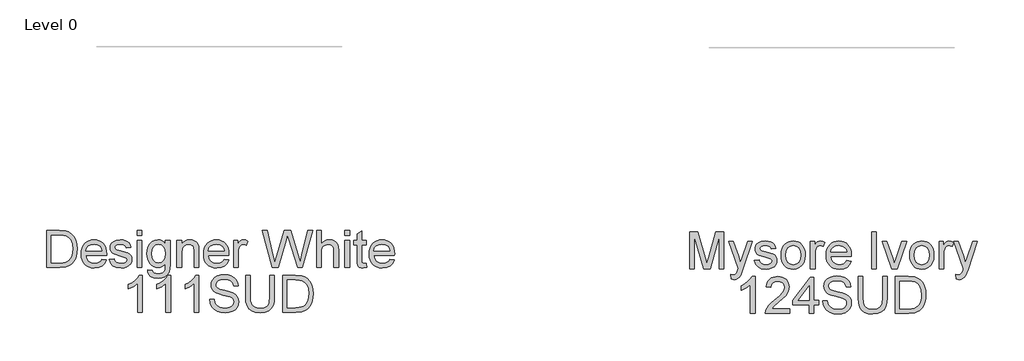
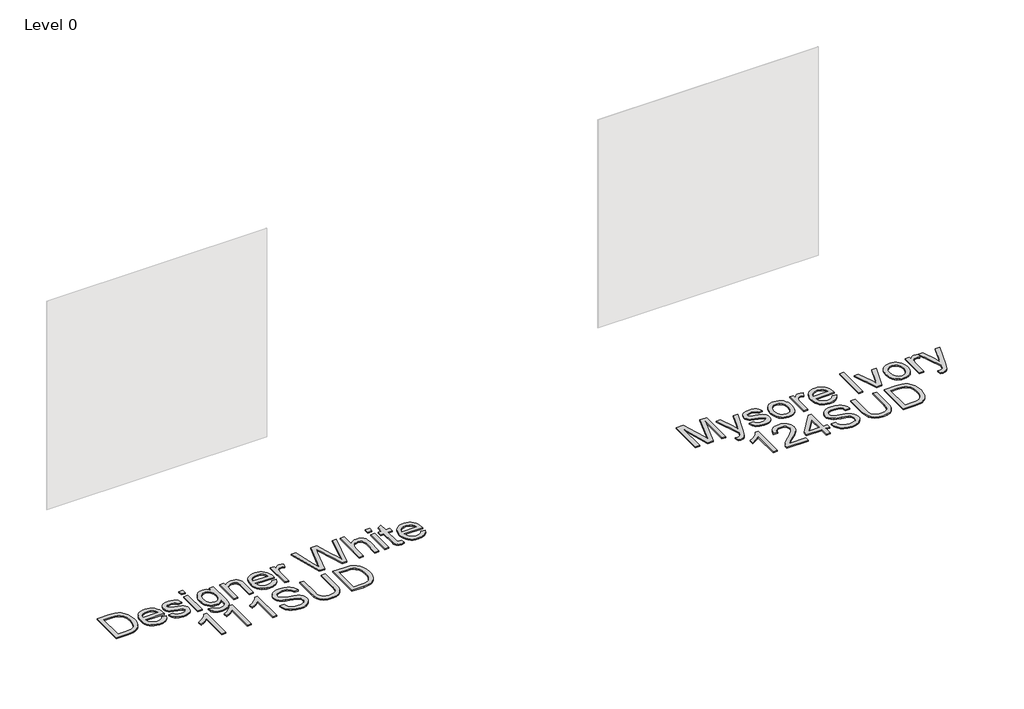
# One storey, part 28 of 37: 2 proxies.
"""IFC4 building model written with IfcOpenShell, lengths in millimetres."""

import ifcopenshell
import ifcopenshell.guid

model = None  # the IFC model being written
_history = None  # IfcOwnerHistory: only IFC2X3 demands one
_inside = {}  # id of a spatial element -> (the spatial element, [elements in it])
_under = {}  # id of a project, library or spatial element -> (it, [spatial elements below it])
_declared = {}  # id of a project -> (the project, [libraries it declares])
_typed = {}  # id of a type object -> (the type object, [elements of that type])
_made_of = {}  # id of a material, layer set ... -> (it, [elements and type objects made of it])


def new_model(schema):
    """Start an empty IFC model of exactly this schema.

    Asked for "IFC4X3", IfcOpenShell would pick the latest addendum, in which some entities
    have other attributes; the version numbers below select the first issue.
    IFC2X3 requires an IfcOwnerHistory on every rooted entity: one is made here for all.
    """
    global model, _history
    if schema == "IFC4X3":
        model = ifcopenshell.file(schema_version=(4, 3, 0, 0))
    else:
        model = ifcopenshell.file(schema=schema)
    _inside.clear()
    _under.clear()
    _declared.clear()
    _typed.clear()
    _made_of.clear()
    _history = None
    if model.schema == "IFC2X3":
        org = make("IfcOrganization", Name="unknown")
        user = make(
            "IfcPersonAndOrganization",
            ThePerson=make("IfcPerson", FamilyName="unknown"),
            TheOrganization=org,
        )
        app = make(
            "IfcApplication",
            ApplicationDeveloper=org,
            Version="unknown",
            ApplicationFullName="unknown",
            ApplicationIdentifier="unknown",
        )
        _history = make(
            "IfcOwnerHistory",
            OwningUser=user,
            OwningApplication=app,
            ChangeAction="ADDED",
            CreationDate=0,
        )
    return model


def make(cls, **values):
    """One entity of the class cls with the attributes given. An attribute that is None is left unset."""
    return model.create_entity(
        cls, **{name: value for name, value in values.items() if value is not None}
    )


def rooted(cls, **values):
    """An entity with a GlobalId (a new one), such as an element, a storey or a relation."""
    return make(cls, GlobalId=ifcopenshell.guid.new(), OwnerHistory=_history, **values)


def si_unit(unit_type, name, prefix=None):
    """IfcSIUnit, for example si_unit("LENGTHUNIT", "METRE", prefix="MILLI")."""
    return make("IfcSIUnit", UnitType=unit_type, Prefix=prefix, Name=name)


def assignment(units):
    """IfcUnitAssignment: the units of a project."""
    return None if units is None else make("IfcUnitAssignment", Units=units)


def point(xyz):
    """IfcCartesianPoint."""
    return None if xyz is None else make("IfcCartesianPoint", Coordinates=xyz)


def direction(xyz):
    """IfcDirection."""
    return None if xyz is None else make("IfcDirection", DirectionRatios=xyz)


def frame(location, z_axis=None, x_axis=None):
    """IfcAxis2Placement3D, a coordinate frame: its origin and axes. An axis left out is left unset."""
    return make(
        "IfcAxis2Placement3D",
        Location=point(location),
        Axis=direction(z_axis),
        RefDirection=direction(x_axis),
    )


def origin():
    """The frame at (0, 0, 0) with its axes left unset."""
    return frame((0.0, 0.0, 0.0))


def origin_with_axes():
    """The frame at (0, 0, 0) with the z axis (0, 0, 1) and the x axis (1, 0, 0) written out."""
    return frame((0.0, 0.0, 0.0), z_axis=(0.0, 0.0, 1.0), x_axis=(1.0, 0.0, 0.0))


def place(relative_to, where):
    """IfcLocalPlacement: puts the frame where relative to a parent placement (None: the world)."""
    return make(
        "IfcLocalPlacement", PlacementRelTo=relative_to, RelativePlacement=where
    )


def context(
    kind, dimensions, precision=None, world=None, true_north=None, identifier=None
):
    """IfcGeometricRepresentationContext, for example the 3D "Model" context."""
    return make(
        "IfcGeometricRepresentationContext",
        ContextIdentifier=identifier,
        ContextType=kind,
        CoordinateSpaceDimension=dimensions,
        Precision=precision,
        WorldCoordinateSystem=world,
        TrueNorth=true_north,
    )


def project(units=None, contexts=None):
    """IfcProject with its units and contexts."""
    return rooted(
        "IfcProject",
        Name="project",
        RepresentationContexts=contexts,
        UnitsInContext=assignment(units),
    )


def spatial(cls, under=None, at=None, **own):
    """A site, building, storey or space (cls), placed at a placement, below another one or the project."""
    s = rooted(cls, ObjectPlacement=at, **own)
    if under is not None:
        _under.setdefault(under.id(), (under, []))[1].append(s)
    return s


def polyline(points):
    """IfcPolyline through the points."""
    return make("IfcPolyline", Points=[point(p) for p in points])


def outline(outer, holes=None, kind="AREA"):
    """IfcArbitraryClosedProfileDef: a profile drawn as a closed curve; with holes, ...WithVoids."""
    if holes is None:
        return make("IfcArbitraryClosedProfileDef", ProfileType=kind, OuterCurve=outer)
    return make(
        "IfcArbitraryProfileDefWithVoids",
        ProfileType=kind,
        OuterCurve=outer,
        InnerCurves=holes,
    )


def extrude(swept, where, along, depth):
    """IfcExtrudedAreaSolid: the profile swept, set in the frame where, extruded along a direction by depth."""
    return make(
        "IfcExtrudedAreaSolid",
        SweptArea=swept,
        Position=where,
        ExtrudedDirection=direction(along),
        Depth=depth,
    )


def shape(context_of_items, identifier, shape_type, items):
    """IfcShapeRepresentation: the items that make up one representation, for example the "Body"."""
    return make(
        "IfcShapeRepresentation",
        ContextOfItems=context_of_items,
        RepresentationIdentifier=identifier,
        RepresentationType=shape_type,
        Items=items,
    )


def made_of(thing, what):
    """Note that an element or type object is made of a material, layer set ...; save() writes the relation."""
    if what is not None:
        _made_of.setdefault(what.id(), (what, []))[1].append(thing)
    return thing


def element(
    cls,
    number,
    at=None,
    inside=None,
    cuts=None,
    type_object=None,
    material=None,
    context=None,
    identifier="Body",
    shape_type=None,
    held_by="IfcProductDefinitionShape",
    body=None,
    shapes=None,
    **own,
):
    """One element of the class cls, such as IfcWall. Its Tag is "e" and its number.

    at: its placement. inside: the storey or other place that contains it. cuts: it is an
    opening in that element (IfcRelVoidsElement). A single representation is given by context,
    identifier, shape_type and body (its items); several are given by shapes. held_by: the class
    of the entity that holds the representations. save() writes the other relations.
    """
    e = rooted(cls, Tag="e%d" % number, ObjectPlacement=at, **own)
    if body is not None:
        shapes = [shape(context, identifier, shape_type, body)]
    if shapes is not None:
        e.Representation = make(held_by, Representations=shapes)
    if inside is not None:
        _inside.setdefault(inside.id(), (inside, []))[1].append(e)
    if cuts is not None:
        rooted(
            "IfcRelVoidsElement", RelatingBuildingElement=cuts, RelatedOpeningElement=e
        )
    if type_object is not None:
        _typed.setdefault(type_object.id(), (type_object, []))[1].append(e)
    return made_of(e, material)


def aggregate(whole, parts):
    """IfcRelAggregates: a whole, such as a stair, and the parts it consists of."""
    return rooted("IfcRelAggregates", RelatingObject=whole, RelatedObjects=parts)


def save(model, path):
    """Write the relations noted so far, then the file.

    IfcRelAggregates (storeys below a building ...), IfcRelContainedInSpatialStructure (elements
    in a storey), IfcRelDefinesByType, IfcRelAssociatesMaterial and IfcRelDeclares: one each for
    every whole, place, type object, material and project.
    """
    for whole, parts in _under.values():
        aggregate(whole, parts)
    for where, things in _inside.values():
        rooted(
            "IfcRelContainedInSpatialStructure",
            RelatedElements=things,
            RelatingStructure=where,
        )
    for kind, things in _typed.values():
        rooted("IfcRelDefinesByType", RelatedObjects=things, RelatingType=kind)
    for what, things in _made_of.values():
        rooted("IfcRelAssociatesMaterial", RelatedObjects=things, RelatingMaterial=what)
    for by, libraries in _declared.values():
        rooted("IfcRelDeclares", RelatingContext=by, RelatedDefinitions=libraries)
    model.write(path)


model = new_model("IFC4")

# Units and contexts
model_context = context("Model", 3, world=origin())
ifc_project = project(units=[si_unit("LENGTHUNIT", "METRE", prefix="MILLI")], contexts=[model_context])

# Site, building, storey
site = spatial("IfcSite", under=ifc_project)
building = spatial("IfcBuilding", under=site)
storey = spatial("IfcBuildingStorey", under=building, Name="Level 0", Elevation=0.0)

# Proxies
placement = place(None, origin())
element("IfcBuildingElementProxy", 1, Name="300mm Arial", ObjectType="300mm Arial", at=placement, inside=storey, context=model_context, shape_type="SweptSolid", body=[
    extrude(outline(polyline([(-858.6160282, -7002.860494), (-858.6160282, -6701.4915635), (-754.6525764, -6701.4915635), (-700.8682287, -6705.8325711), (-676.8455344, -6714.2018865), (-656.5752365, -6727.390456), (-635.7347215, -6750.3462925), (-620.890683, -6778.8939353), (-612.0063328, -6812.4815615), (-609.0448827, -6850.557348), (-611.0498396, -6882.9033724), (-617.0647102, -6911.3682418), (-626.2249719, -6935.6024682), (-637.6661019, -6955.2565638), (-650.8362774, -6970.771987), (-665.1836752, -6982.590196), (-681.6555915, -6991.3549846), (-701.1993225, -6997.710146), (-749.6493813, -7002.860494), (-858.6160282, -7002.860494)]), holes=[polyline([(-820.9449119, -6965.1893777), (-754.2846944, -6965.1893777), (-726.7119389, -6963.8282143), (-705.7978475, -6959.7447241), (-690.0157099, -6953.1780305), (-677.8388158, -6944.3672567), (-664.7514138, -6928.0608873), (-654.9197675, -6906.9536578), (-648.7669411, -6880.9535978), (-646.715999, -6849.9687368), (-650.7351098, -6808.9131061), (-662.7924422, -6778.5996297), (-680.6071278, -6757.7775088), (-701.8982983, -6745.1959446), (-723.5665478, -6740.670996), (-755.314764, -6739.1626798), (-820.9449119, -6739.1626798), (-820.9449119, -6965.1893777)])]), origin_with_axes(), (0.0, 0.0, 1.0), 10.0),
    extrude(outline(polyline([(-407.004091, -6936.9360404), (-370.0687387, -6941.64493), (-383.3768698, -6969.4752029), (-404.612858, -6990.2789297), (-433.2984566, -7003.2467701), (-468.955419, -7007.5693835), (-492.3297212, -7005.7046817), (-513.1564407, -7000.1105761), (-531.4355773, -6990.7870668), (-547.1671311, -6977.7341537), (-559.8176732, -6961.3151204), (-568.8537747, -6941.8932503), (-574.2754357, -6919.4685435), (-576.082656, -6894.0409998), (-574.2570416, -6867.7512327), (-568.7801983, -6844.5792656), (-559.6521263, -6824.5250983), (-546.8728255, -6807.5887309), (-531.1826584, -6794.133447), (-513.3219876, -6784.5225298), (-493.2908129, -6778.7559796), (-471.0891345, -6776.8337961), (-449.6025267, -6778.751381), (-430.1714596, -6784.5041357), (-412.7959331, -6794.0920602), (-397.4759473, -6807.5151545), (-384.9702587, -6824.4147337), (-376.037624, -6844.4321128), (-370.6780432, -6867.5672917), (-368.8915163, -6893.8202706), (-369.1122455, -6903.9738137), (-538.4115396, -6903.9738137), (-531.8908313, -6932.1719686), (-516.7432901, -6952.902119), (-494.8819026, -6965.6492302), (-468.219655, -6969.8982672), (-448.1700862, -6967.9300985), (-431.2843027, -6962.0255925), (-417.5623042, -6951.8168672), (-407.004091, -6936.9360404)]), holes=[polyline([(-538.4115396, -6866.3026974), (-406.5626326, -6866.3026974), (-411.6577982, -6846.4002814), (-421.6457944, -6832.1632482), (-443.6083495, -6818.9194964), (-471.2362873, -6814.5049125), (-496.629342, -6818.0273826), (-517.6262069, -6828.5947929), (-532.2219251, -6845.0667092), (-538.4115396, -6866.3026974)])]), origin_with_axes(), (0.0, 0.0, 1.0), 10.0),
    extrude(outline(polyline([(-345.3470686, -6936.9360404), (-307.6759523, -6932.2271509), (-301.734658, -6948.3403823), (-290.2383457, -6960.1861825), (-273.1134388, -6967.470246), (-250.286361, -6969.8982672), (-227.7351947, -6967.6725811), (-211.8794807, -6960.9955229), (-202.4984899, -6951.3202265), (-199.3714929, -6940.0998256), (-202.5168839, -6930.4981055), (-211.9530571, -6923.1772538), (-250.7278194, -6912.4350996), (-307.4552231, -6894.0042116), (-321.8118179, -6884.7427824), (-332.2136813, -6872.4831149), (-338.5320546, -6858.0069584), (-340.638179, -6842.0960621), (-338.9459219, -6827.5003439), (-333.8691503, -6814.0266659), (-325.8677169, -6802.2084568), (-315.4014742, -6792.5791455), (-291.4523563, -6781.4323211), (-259.0419525, -6776.8337961), (-234.5226175, -6778.6824032), (-213.2038559, -6784.2282242), (-196.0605549, -6792.9286334), (-184.0676019, -6804.2410048), (-176.1213508, -6819.0022698), (-171.1181557, -6838.0493601), (-208.789272, -6842.7582497), (-213.5441468, -6830.9032524), (-222.9527288, -6821.972917), (-237.1069885, -6816.3719136), (-256.0988965, -6814.5049125), (-277.7303579, -6816.2891401), (-292.1513321, -6821.6418232), (-300.2631301, -6829.3673451), (-302.9670627, -6838.2700893), (-298.4789024, -6849.2329728), (-284.4258102, -6857.5471059), (-251.9786182, -6865.5669334), (-196.6859543, -6883.2988455), (-182.0810391, -6891.7785255), (-171.0077911, -6903.3852025), (-164.0272302, -6918.1556646), (-161.7003766, -6936.1267001), (-164.4319004, -6954.7047408), (-172.6264718, -6972.1791356), (-185.9713912, -6987.1795239), (-204.1539588, -6998.3355454), (-226.1165139, -7005.260924), (-250.8013958, -7007.5693835), (-288.7852118, -7003.1180114), (-316.5051202, -6989.763895), (-335.0095845, -6967.654187), (-345.3470686, -6936.9360404)])), origin_with_axes(), (0.0, 0.0, 1.0), 10.0),
    extrude(outline(polyline([(-119.3203707, -6739.1626798), (-119.3203707, -6701.4915635), (-81.6492544, -6701.4915635), (-81.6492544, -6739.1626798), (-119.3203707, -6739.1626798)])), origin_with_axes(), (0.0, 0.0, 1.0), 10.0),
    extrude(outline(polyline([(-119.3203707, -7002.860494), (-119.3203707, -6781.5426857), (-81.6492544, -6781.5426857), (-81.6492544, -7002.860494), (-119.3203707, -7002.860494)])), origin_with_axes(), (0.0, 0.0, 1.0), 10.0),
    extrude(outline(polyline([(-34.5603591, -7021.6960521), (3.1107573, -7026.4049417), (7.2678238, -7038.1771655), (15.3244395, -7046.2705694), (31.1617594, -7052.5613515), (51.8919098, -7054.6582789), (74.0016177, -7052.28544), (90.4459429, -7045.1669234), (101.8502848, -7033.7625816), (108.8400427, -7018.532267), (111.4152166, -6974.6071568), (98.8796376, -6986.9679918), (84.8909248, -6995.7971597), (69.449078, -7001.0946604), (52.5540974, -7002.860494), (31.8998226, -7000.8049533), (13.7149558, -6994.6383314), (-2.0005032, -6984.3606281), (-15.2465543, -6969.9718436), (-25.7564831, -6952.708981), (-33.263575, -6933.8090435), (-37.7678302, -6913.2720311), (-39.2692486, -6891.0979438), (-36.574513, -6860.6832999), (-28.4903061, -6832.7150712), (-15.3017366, -6809.0142737), (2.7060871, -6791.4019232), (24.9169625, -6780.4758279), (50.7146874, -6776.8337961), (68.3316365, -6778.8939353), (84.3207077, -6785.0743528), (98.6819011, -6795.3750487), (111.4152166, -6809.7960229), (111.4152166, -6781.5426857), (149.0863329, -6781.5426857), (149.0863329, -6972.620594), (146.511159, -7016.7388422), (138.7856371, -7045.7923228), (125.4775059, -7065.0601423), (106.1545041, -7079.8214074), (81.239696, -7089.2023982), (51.1561458, -7092.3293952), (16.1061887, -7087.9240083), (-11.494158, -7074.7078476), (-21.8891236, -7064.7865301), (-29.198479, -7052.644125), (-33.4222241, -7038.2806323), (-34.5603591, -7021.6960521)]), holes=[polyline([(-1.5981323, -6888.5227699), (2.4209785, -6923.0760863), (14.4783109, -6946.8320661), (32.6056962, -6960.6000498), (54.8349658, -6965.1893777), (76.8986884, -6960.6276409), (95.1180442, -6946.9424307), (107.3409235, -6923.4899535), (111.4152166, -6889.6264159), (107.2213619, -6856.9676917), (94.6397977, -6833.4508352), (76.1537274, -6819.2413931), (54.2463546, -6814.5049125), (32.7344549, -6819.1678167), (14.6990401, -6833.1565296), (2.4761608, -6856.3238983), (-1.5981323, -6888.5227699)])]), origin_with_axes(), (0.0, 0.0, 1.0), 10.0),
    extrude(outline(polyline([(205.5930074, -7002.860494), (205.5930074, -6781.5426857), (243.2641237, -6781.5426857), (243.2641237, -6812.4447733), (256.3515257, -6796.8649708), (272.0692839, -6785.7365404), (290.4173984, -6779.0594822), (311.3958692, -6776.8337961), (329.9647129, -6778.6272209), (346.9700581, -6784.0074951), (361.1519091, -6792.303234), (371.2502698, -6802.8430532), (382.5442471, -6830.5445674), (384.5308099, -6866.964885), (384.5308099, -7002.860494), (346.8596935, -7002.860494), (346.8596935, -6872.0416565), (342.518686, -6838.7115477), (336.5130124, -6828.7879309), (327.1780068, -6821.0900002), (315.2126449, -6816.1511844), (301.3159025, -6814.5049125), (279.2521799, -6818.2021265), (260.4442129, -6829.2937687), (252.9279239, -6838.3482643), (247.559146, -6850.7228949), (243.2641237, -6885.4325611), (243.2641237, -7002.860494), (205.5930074, -7002.860494)])), origin_with_axes(), (0.0, 0.0, 1.0), 10.0),
    extrude(outline(polyline([(591.2804911, -6936.9360404), (628.2158435, -6941.64493), (614.9077123, -6969.4752029), (593.6717241, -6990.2789297), (564.9861255, -7003.2467701), (529.3291632, -7007.5693835), (505.9548609, -7005.7046817), (485.1281414, -7000.1105761), (466.8490048, -6990.7870668), (451.117451, -6977.7341537), (438.4669089, -6961.3151204), (429.4308074, -6941.8932503), (424.0091465, -6919.4685435), (422.2019262, -6894.0409998), (424.0275406, -6867.7512327), (429.5043838, -6844.5792656), (438.6324558, -6824.5250983), (451.4117566, -6807.5887309), (467.1019237, -6794.133447), (484.9625945, -6784.5225298), (504.9937692, -6778.7559796), (527.1954476, -6776.8337961), (548.6820554, -6778.751381), (568.1131225, -6784.5041357), (585.488649, -6794.0920602), (600.8086348, -6807.5151545), (613.3143234, -6824.4147337), (622.2469581, -6844.4321128), (627.6065389, -6867.5672917), (629.3930658, -6893.8202706), (629.1723366, -6903.9738137), (459.8730425, -6903.9738137), (466.3937508, -6932.1719686), (481.541292, -6952.902119), (503.4026795, -6965.6492302), (530.0649271, -6969.8982672), (550.1144959, -6967.9300985), (567.0002795, -6962.0255925), (580.7222779, -6951.8168672), (591.2804911, -6936.9360404)]), holes=[polyline([(459.8730425, -6866.3026974), (591.7219495, -6866.3026974), (586.6267839, -6846.4002814), (576.6387877, -6832.1632482), (554.6762326, -6818.9194964), (527.0482948, -6814.5049125), (501.6552401, -6818.0273826), (480.6583752, -6828.5947929), (466.062657, -6845.0667092), (459.8730425, -6866.3026974)])]), origin_with_axes(), (0.0, 0.0, 1.0), 10.0),
    extrude(outline(polyline([(667.0641821, -7002.860494), (667.0641821, -6781.5426857), (700.0264089, -6781.5426857), (700.0264089, -6814.2841833), (712.203303, -6795.3014723), (723.4237038, -6784.1178596), (734.6808929, -6778.654812), (746.9681515, -6776.8337961), (765.7301333, -6779.7400639), (784.7864206, -6788.4588672), (772.2048564, -6822.2304343), (758.9611045, -6816.4362929), (745.7173527, -6814.5049125), (734.4693607, -6816.3627165), (724.4169852, -6821.9361288), (716.2959902, -6830.8020848), (710.8421396, -6842.5375205), (706.2620087, -6863.5803706), (704.7352985, -6886.5362071), (704.7352985, -7002.860494), (667.0641821, -7002.860494)])), origin_with_axes(), (0.0, 0.0, 1.0), 10.0),
    extrude(outline(polyline([(984.6934968, -7002.860494), (902.5086591, -6701.4915635), (941.3569978, -6701.4915635), (989.0345043, -6899.5592297), (1003.7497841, -6960.7012173), (1019.4951335, -6906.622564), (1079.2391695, -6701.4915635), (1135.2308092, -6701.4915635), (1178.6408846, -6850.189466), (1197.2373195, -6905.3717653), (1210.9409238, -6960.7012173), (1225.2147452, -6901.3250633), (1273.3337102, -6701.4915635), (1312.1820489, -6701.4915635), (1229.9236348, -7002.860494), (1189.6773445, -7002.860494), (1117.4253206, -6770.359073), (1107.345354, -6737.9118811), (1096.0145885, -6776.9809489), (1030.1637114, -7002.860494), (984.6934968, -7002.860494)])), origin_with_axes(), (0.0, 0.0, 1.0), 10.0),
    extrude(outline(polyline([(1345.1442757, -7002.860494), (1345.1442757, -6701.4915635), (1382.815392, -6701.4915635), (1382.815392, -6812.2976205), (1396.6523535, -6796.7821973), (1412.1907693, -6785.6997522), (1429.4306393, -6779.0502852), (1448.3719635, -6776.8337961), (1471.1254649, -6779.2526203), (1490.678393, -6786.5090926), (1506.0742544, -6798.0329961), (1516.3565562, -6813.2541137), (1522.1506976, -6834.1682051), (1524.0820781, -6862.7710302), (1524.0820781, -7002.860494), (1486.4109618, -7002.860494), (1486.4109618, -6866.6705794), (1483.4127235, -6843.0893435), (1474.4180088, -6826.9393239), (1459.9234582, -6817.6135153), (1440.4257124, -6814.5049125), (1424.5056191, -6816.6018398), (1409.560413, -6822.8926219), (1397.1811839, -6832.7702535), (1388.9590213, -6845.6277292), (1384.3512993, -6862.7158479), (1382.815392, -6885.2854083), (1382.815392, -7002.860494), (1345.1442757, -7002.860494)])), origin_with_axes(), (0.0, 0.0, 1.0), 10.0),
    extrude(outline(polyline([(1575.879863, -7002.860494), (1575.879863, -6781.5426857), (1613.5509793, -6781.5426857), (1613.5509793, -7002.860494), (1575.879863, -7002.860494)])), origin_with_axes(), (0.0, 0.0, 1.0), 10.0),
    extrude(outline(polyline([(1575.879863, -6739.1626798), (1575.879863, -6701.4915635), (1613.5509793, -6701.4915635), (1613.5509793, -6739.1626798), (1575.879863, -6739.1626798)])), origin_with_axes(), (0.0, 0.0, 1.0), 10.0),
    extrude(outline(polyline([(1750.1087759, -6971.4433716), (1754.8176655, -7003.96414), (1726.6379047, -7007.5693835), (1708.5565046, -7006.005885), (1695.0736295, -7001.3153896), (1685.5454858, -6994.0865084), (1679.3282801, -6984.9078526), (1675.9069775, -6969.1441091), (1674.7665433, -6942.1599648), (1674.7665433, -6819.213802), (1646.5132061, -6819.213802), (1646.5132061, -6781.5426857), (1674.7665433, -6781.5426857), (1674.7665433, -6727.758338), (1712.4376596, -6705.6118419), (1712.4376596, -6781.5426857), (1750.1087759, -6781.5426857), (1750.1087759, -6819.213802), (1712.4376596, -6819.213802), (1712.4376596, -6941.0563188), (1714.4242224, -6960.4804881), (1720.8621573, -6967.3598814), (1733.701239, -6969.8982672), (1750.1087759, -6971.4433716)])), origin_with_axes(), (0.0, 0.0, 1.0), 10.0),
    extrude(outline(polyline([(1942.7317886, -6936.9360404), (1979.6671409, -6941.64493), (1966.3590098, -6969.4752029), (1945.1230216, -6990.2789297), (1916.437423, -7003.2467701), (1880.7804606, -7007.5693835), (1857.4061584, -7005.7046817), (1836.5794389, -7000.1105761), (1818.3003023, -6990.7870668), (1802.5687485, -6977.7341537), (1789.9182064, -6961.3151204), (1780.8821048, -6941.8932503), (1775.4604439, -6919.4685435), (1773.6532236, -6894.0409998), (1775.478838, -6867.7512327), (1780.9556812, -6844.5792656), (1790.0837533, -6824.5250983), (1802.8630541, -6807.5887309), (1818.5532212, -6794.133447), (1836.413892, -6784.5225298), (1856.4450667, -6778.7559796), (1878.6467451, -6776.8337961), (1900.1333528, -6778.751381), (1919.56442, -6784.5041357), (1936.9399465, -6794.0920602), (1952.2599323, -6807.5151545), (1964.7656209, -6824.4147337), (1973.6982556, -6844.4321128), (1979.0578364, -6867.5672917), (1980.8443633, -6893.8202706), (1980.6236341, -6903.9738137), (1811.3243399, -6903.9738137), (1817.8450483, -6932.1719686), (1832.9925895, -6952.902119), (1854.853977, -6965.6492302), (1881.5162246, -6969.8982672), (1901.5657934, -6967.9300985), (1918.4515769, -6962.0255925), (1932.1735754, -6951.8168672), (1942.7317886, -6936.9360404)]), holes=[polyline([(1811.3243399, -6866.3026974), (1943.173247, -6866.3026974), (1938.0780814, -6846.4002814), (1928.0900852, -6832.1632482), (1906.1275301, -6818.9194964), (1878.4995923, -6814.5049125), (1853.1065375, -6818.0273826), (1832.1096727, -6828.5947929), (1817.5139545, -6845.0667092), (1811.3243399, -6866.3026974)])]), origin_with_axes(), (0.0, 0.0, 1.0), 10.0),
    extrude(outline(polyline([(-76.9403649, -7368.7849475), (-114.6114812, -7368.7849475), (-114.6114812, -7133.9290818), (-150.2960347, -7159.3497277), (-189.9537138, -7178.3692268), (-189.9537138, -7142.7582497), (-160.3668044, -7126.6634124), (-134.7346263, -7107.5151545), (-114.5287078, -7087.1528861), (-101.2205766, -7067.4160171), (-76.9403649, -7067.4160171), (-76.9403649, -7368.7849475)])), origin_with_axes(), (0.0, 0.0, 1.0), 10.0),
    extrude(outline(polyline([(153.7952225, -7368.7849475), (116.1241062, -7368.7849475), (116.1241062, -7133.9290818), (80.4395526, -7159.3497277), (40.7818736, -7178.3692268), (40.7818736, -7142.7582497), (70.368783, -7126.6634124), (96.000961, -7107.5151545), (116.2068796, -7087.1528861), (129.5150108, -7067.4160171), (153.7952225, -7067.4160171), (153.7952225, -7368.7849475)])), origin_with_axes(), (0.0, 0.0, 1.0), 10.0),
    extrude(outline(polyline([(384.5308099, -7368.7849475), (346.8596935, -7368.7849475), (346.8596935, -7133.9290818), (311.17514, -7159.3497277), (271.5174609, -7178.3692268), (271.5174609, -7142.7582497), (301.1043704, -7126.6634124), (326.7365484, -7107.5151545), (346.942467, -7087.1528861), (360.2505982, -7067.4160171), (384.5308099, -7067.4160171), (384.5308099, -7368.7849475)])), origin_with_axes(), (0.0, 0.0, 1.0), 10.0),
    extrude(outline(polyline([(473.9997111, -7265.1893777), (511.6708274, -7265.1893777), (515.9934408, -7286.0942721), (523.8109332, -7302.8972822), (536.0062214, -7316.2330045), (553.462222, -7326.7360355), (574.7993778, -7333.5510494), (598.638131, -7335.8227207), (619.6257989, -7334.1028724), (638.0015045, -7328.9433274), (652.8915283, -7320.7763471), (663.4221504, -7310.0341929), (669.6853414, -7297.700949), (671.7730717, -7284.7606998), (670.2095732, -7272.1515444), (665.5190778, -7261.2530403), (655.9909341, -7251.9548229), (639.9144909, -7244.1465276), (585.0632854, -7229.7623415), (549.0568351, -7220.2433949), (526.0182252, -7211.1843008), (507.2654405, -7198.510766), (493.9757034, -7183.1516928), (486.0570435, -7165.4381747), (483.4174902, -7145.7013056), (486.6824429, -7123.637583), (496.477301, -7103.0637824), (512.5445471, -7085.6261758), (534.6266639, -7072.9710352), (561.1325616, -7065.2731044), (590.4711508, -7062.7071275), (622.2561551, -7065.3926661), (650.068034, -7073.4492818), (672.9135059, -7086.7114277), (689.7992895, -7105.013557), (700.4862614, -7127.2152354), (704.7352985, -7152.1760288), (667.0641821, -7152.1760288), (660.1480006, -7129.6984389), (645.7270264, -7113.4748429), (623.1942542, -7103.6523936), (591.9426787, -7100.3782438), (559.9553393, -7103.6156054), (538.0111782, -7113.3276901), (525.3192494, -7127.6199056), (521.0886065, -7144.5976597), (524.0868447, -7159.0738162), (533.0815595, -7170.7172813), (554.3451388, -7181.1283418), (594.5914291, -7191.7601314), (636.1253064, -7201.8584922), (661.2516466, -7210.669266), (682.7267581, -7224.3360821), (697.7087523, -7241.2034716), (706.5103291, -7261.0874934), (709.444188, -7283.8042066), (706.0688707, -7307.0267576), (695.9429188, -7328.869751), (679.4801995, -7347.668521), (657.0945801, -7361.7584014), (630.1748151, -7370.5599781), (600.109659, -7373.4938371), (563.2018979, -7370.3300519), (532.8240421, -7360.8386964), (508.6266039, -7344.9829824), (490.2600953, -7322.7261217), (478.4694773, -7295.6132187), (473.9997111, -7265.1893777)])), origin_with_axes(), (0.0, 0.0, 1.0), 10.0),
    extrude(outline(polyline([(963.7242231, -7067.4160171), (1001.3953394, -7067.4160171), (1001.3953394, -7241.277048), (998.8385595, -7281.9923878), (991.1682199, -7313.3451308), (976.8392162, -7337.533372), (954.306444, -7356.7552063), (923.514721, -7369.3091794), (884.4088649, -7373.4938371), (846.1583345, -7369.8518053), (815.5781436, -7358.92571), (792.6590953, -7341.0926303), (777.3919925, -7316.7296452), (768.811145, -7284.052527), (765.9508625, -7241.277048), (765.9508625, -7067.4160171), (803.6219788, -7067.4160171), (803.6219788, -7239.9526728), (805.4797828, -7273.8070134), (811.0531951, -7297.3790523), (821.1515558, -7313.7038158), (836.5842055, -7325.8163305), (856.7073507, -7333.3211232), (880.8771977, -7335.8227207), (919.1921075, -7330.8747079), (933.5349068, -7324.6896919), (944.6679357, -7316.0306694), (953.0050614, -7303.8537754), (958.9601512, -7287.1151446), (963.7242231, -7239.9526728), (963.7242231, -7067.4160171)])), origin_with_axes(), (0.0, 0.0, 1.0), 10.0),
    extrude(outline(polyline([(1067.3197929, -7368.7849475), (1067.3197929, -7067.4160171), (1171.2832447, -7067.4160171), (1225.0675924, -7071.7570246), (1249.0902867, -7080.12634), (1269.3605847, -7093.3149095), (1290.2010997, -7116.270746), (1305.0451382, -7144.8183889), (1313.9294884, -7178.406015), (1316.8909384, -7216.4818015), (1314.8859816, -7248.8278259), (1308.8711109, -7277.2926953), (1299.7108493, -7301.5269217), (1288.2697192, -7321.1810173), (1275.0995438, -7336.6964405), (1260.752146, -7348.5146496), (1244.2802296, -7357.2794381), (1224.7364986, -7363.6345996), (1176.2864399, -7368.7849475), (1067.3197929, -7368.7849475)]), holes=[polyline([(1104.9909092, -7331.1138312), (1171.6511267, -7331.1138312), (1199.2238823, -7329.7526678), (1220.1379737, -7325.6691777), (1235.9201113, -7319.1024841), (1248.0970053, -7310.2917103), (1261.1844073, -7293.9853408), (1271.0160536, -7272.8781114), (1277.16888, -7246.8780514), (1279.2198221, -7215.8931903), (1275.2007113, -7174.8375597), (1263.1433789, -7144.5240833), (1245.3286933, -7123.7019623), (1224.0375228, -7111.1203981), (1202.3692733, -7106.5954496), (1170.6210571, -7105.0871334), (1104.9909092, -7105.0871334), (1104.9909092, -7331.1138312)])]), origin_with_axes(), (0.0, 0.0, 1.0), 10.0),
])
element("IfcBuildingElementProxy", 2, Name="300mm Arial", ObjectType="300mm Arial", at=placement, inside=storey, context=model_context, shape_type="SweptSolid", body=[
    extrude(outline(polyline([(4390.9551173, -7012.860494), (4390.9551173, -6711.4915635), (4455.7759248, -6711.4915635), (4517.4329472, -6923.9066275), (4529.8673587, -6968.2731962), (4543.3318397, -6920.2278076), (4603.9587925, -6711.4915635), (4668.7796, -6711.4915635), (4668.7796, -7012.860494), (4631.1084837, -7012.860494), (4631.1084837, -6749.1626798), (4555.3983691, -7012.860494), (4504.3363482, -7012.860494), (4428.6262336, -6749.1626798), (4428.6262336, -7012.860494), (4390.9551173, -7012.860494)])), origin_with_axes(), (0.0, 0.0, 1.0), 10.0),
    extrude(outline(polyline([(4729.995164, -7097.6205057), (4725.2862745, -7061.3473409), (4744.4161382, -7064.6582789), (4762.2952032, -7060.5012124), (4773.2580867, -7048.9129295), (4783.5587825, -7021.1746271), (4786.5018385, -7012.0511536), (4706.4507163, -6791.5426857), (4746.1819718, -6791.5426857), (4788.6355541, -6914.4152721), (4803.4244103, -6963.5643066), (4818.2132665, -6920.1542312), (4861.8440711, -6791.5426857), (4901.281021, -6791.5426857), (4824.2465312, -7018.1579947), (4804.2337507, -7067.3070293), (4793.9882371, -7082.9971964), (4782.3815601, -7093.8681093), (4768.898685, -7100.2140737), (4753.0245769, -7102.3293952), (4729.995164, -7097.6205057)])), origin_with_axes(), (0.0, 0.0, 1.0), 10.0),
    extrude(outline(polyline([(4918.3507456, -6946.9360404), (4956.0218619, -6942.2271509), (4961.9631561, -6958.3403823), (4973.4594684, -6970.1861825), (4990.5843753, -6977.470246), (5013.4114531, -6979.8982672), (5035.9626194, -6977.6725811), (5051.8183334, -6970.9955229), (5061.1993243, -6961.3202265), (5064.3263213, -6950.0998256), (5061.1809302, -6940.4981055), (5051.744757, -6933.1772538), (5012.9699947, -6922.4350996), (4956.2425911, -6904.0042116), (4941.8859962, -6894.7427824), (4931.4841328, -6882.4831149), (4925.1657595, -6868.0069584), (4923.0596351, -6852.0960621), (4924.7518923, -6837.5003439), (4929.8286638, -6824.0266659), (4937.8300972, -6812.2084568), (4948.29634, -6802.5791455), (4972.2454579, -6791.4323211), (5004.6558616, -6786.8337961), (5029.1751966, -6788.6824032), (5050.4939582, -6794.2282242), (5067.6372592, -6802.9286334), (5079.6302123, -6814.2410048), (5087.5764633, -6829.0022698), (5092.5796585, -6848.0493601), (5054.9085422, -6852.7582497), (5050.1536674, -6840.9032524), (5040.7450854, -6831.972917), (5026.5908256, -6826.3719136), (5007.5989176, -6824.5049125), (4985.9674563, -6826.2891401), (4971.5464821, -6831.6418232), (4963.4346841, -6839.3673451), (4960.7307514, -6848.2700893), (4965.2189118, -6859.2329728), (4979.272004, -6867.5471059), (5011.7191959, -6875.5669334), (5067.0118598, -6893.2988455), (5081.616775, -6901.7785255), (5092.6900231, -6913.3852025), (5099.6705839, -6928.1556646), (5101.9974376, -6946.1267001), (5099.2659137, -6964.7047408), (5091.0713423, -6982.1791356), (5077.7264229, -6997.1795239), (5059.5438553, -7008.3355454), (5037.5813002, -7015.260924), (5012.8964183, -7017.5693835), (4974.9126023, -7013.1180114), (4947.192694, -6999.763895), (4928.6882296, -6977.654187), (4918.3507456, -6946.9360404)])), origin_with_axes(), (0.0, 0.0, 1.0), 10.0),
    extrude(outline(polyline([(5134.9596643, -6902.2015898), (5136.9968109, -6873.5389839), (5143.1082505, -6848.8403064), (5153.2939833, -6828.1055575), (5167.5540091, -6811.334737), (5181.910604, -6800.6155754), (5197.7571209, -6792.9590314), (5215.0935599, -6788.3651049), (5233.919921, -6786.8337961), (5254.7029545, -6788.698498), (5273.4948267, -6794.2926036), (5290.2955375, -6803.6161129), (5305.1050871, -6816.669026), (5317.1923099, -6833.0098843), (5325.8260405, -6852.1972296), (5331.0062788, -6874.2310619), (5332.7330249, -6899.1113811), (5329.6796044, -6937.1687735), (5320.5193427, -6966.1394806), (5305.5189543, -6987.8353213), (5284.9451538, -7004.0681143), (5260.5085922, -7014.1940662), (5233.919921, -7017.5693835), (5212.8333849, -7015.7115794), (5193.8667688, -7010.1381672), (5177.0200727, -7000.8491468), (5162.2932966, -6987.8445183), (5150.3348325, -6971.3450108), (5141.7930724, -6951.5713536), (5136.6680163, -6928.5235466), (5134.9596643, -6902.2015898)]), holes=[polyline([(5172.6307806, -6902.1280134), (5176.9901823, -6936.2214773), (5190.0683872, -6960.5108861), (5209.7500739, -6975.0514219), (5233.919921, -6979.8982672), (5257.9794035, -6975.0238308), (5277.6243021, -6960.4005215), (5290.702507, -6935.789216), (5295.0619086, -6900.950791), (5290.6749158, -6867.8506085), (5277.5139375, -6843.8922936), (5257.8414478, -6829.3517577), (5233.919921, -6824.5049125), (5209.7500739, -6829.3333636), (5190.0683872, -6843.8187172), (5176.9901823, -6868.0529436), (5172.6307806, -6902.1280134)])]), origin_with_axes(), (0.0, 0.0, 1.0), 10.0),
    extrude(outline(polyline([(5375.1130308, -7012.860494), (5375.1130308, -6791.5426857), (5408.0752575, -6791.5426857), (5408.0752575, -6824.2841833), (5420.2521516, -6805.3014723), (5431.4725524, -6794.1178596), (5442.7297415, -6788.654812), (5455.0170001, -6786.8337961), (5473.7789819, -6789.7400639), (5492.8352692, -6798.4588672), (5480.253705, -6832.2304343), (5467.0099532, -6826.4362929), (5453.7662013, -6824.5049125), (5442.5182093, -6826.3627165), (5432.4658338, -6831.9361288), (5424.3448388, -6840.8020848), (5418.8909882, -6852.5375205), (5414.3108574, -6873.5803706), (5412.7841471, -6896.5362071), (5412.7841471, -7012.860494), (5375.1130308, -7012.860494)])), origin_with_axes(), (0.0, 0.0, 1.0), 10.0),
    extrude(outline(polyline([(5671.3316133, -6946.9360404), (5708.2669656, -6951.64493), (5694.9588344, -6979.4752029), (5673.7228463, -7000.2789297), (5645.0372477, -7013.2467701), (5609.3802853, -7017.5693835), (5586.005983, -7015.7046817), (5565.1792636, -7010.1105761), (5546.9001269, -7000.7870668), (5531.1685731, -6987.7341537), (5518.518031, -6971.3151204), (5509.4819295, -6951.8932503), (5504.0602686, -6929.4685435), (5502.2530483, -6904.0409998), (5504.0786627, -6877.7512327), (5509.5555059, -6854.5792656), (5518.6835779, -6834.5250983), (5531.4628787, -6817.5887309), (5547.1530458, -6804.133447), (5565.0137167, -6794.5225298), (5585.0448913, -6788.7559796), (5607.2465697, -6786.8337961), (5628.7331775, -6788.751381), (5648.1642446, -6794.5041357), (5665.5397711, -6804.0920602), (5680.859757, -6817.5151545), (5693.3654455, -6834.4147337), (5702.2980802, -6854.4321128), (5707.6576611, -6877.5672917), (5709.444188, -6903.8202706), (5709.2234588, -6913.9738137), (5539.9241646, -6913.9738137), (5546.444873, -6942.1719686), (5561.5924141, -6962.902119), (5583.4538017, -6975.6492302), (5610.1160493, -6979.8982672), (5630.165618, -6977.9300985), (5647.0514016, -6972.0255925), (5660.7734, -6961.8168672), (5671.3316133, -6946.9360404)]), holes=[polyline([(5539.9241646, -6876.3026974), (5671.7730717, -6876.3026974), (5666.6779061, -6856.4002814), (5656.6899099, -6842.1632482), (5634.7273548, -6828.9194964), (5607.0994169, -6824.5049125), (5581.7063622, -6828.0273826), (5560.7094973, -6838.5947929), (5546.1137792, -6855.0667092), (5539.9241646, -6876.3026974)])]), origin_with_axes(), (0.0, 0.0, 1.0), 10.0),
    extrude(outline(polyline([(5874.2553218, -7012.860494), (5874.2553218, -6711.4915635), (5911.9264381, -6711.4915635), (5911.9264381, -7012.860494), (5874.2553218, -7012.860494)])), origin_with_axes(), (0.0, 0.0, 1.0), 10.0),
    extrude(outline(polyline([(6036.8591637, -7012.860494), (5959.0153335, -6791.5426857), (5998.8937418, -6791.5426857), (6046.0562136, -6924.1273567), (6060.2564586, -6968.7146546), (6074.162398, -6926.6289543), (6121.6191754, -6791.5426857), (6161.4975837, -6791.5426857), (6084.6102467, -7012.860494), (6036.8591637, -7012.860494)])), origin_with_axes(), (0.0, 0.0, 1.0), 10.0),
    extrude(outline(polyline([(6185.0420314, -6902.2015898), (6187.0791779, -6873.5389839), (6193.1906176, -6848.8403064), (6203.3763503, -6828.1055575), (6217.6363761, -6811.334737), (6231.992971, -6800.6155754), (6247.8394879, -6792.9590314), (6265.175927, -6788.3651049), (6284.0022881, -6786.8337961), (6304.7853215, -6788.698498), (6323.5771937, -6794.2926036), (6340.3779046, -6803.6161129), (6355.1874541, -6816.669026), (6367.2746769, -6833.0098843), (6375.9084075, -6852.1972296), (6381.0886459, -6874.2310619), (6382.815392, -6899.1113811), (6379.7619714, -6937.1687735), (6370.6017097, -6966.1394806), (6355.6013214, -6987.8353213), (6335.0275208, -7004.0681143), (6310.5909593, -7014.1940662), (6284.0022881, -7017.5693835), (6262.9157519, -7015.7115794), (6243.9491358, -7010.1381672), (6227.1024397, -7000.8491468), (6212.3756636, -6987.8445183), (6200.4171995, -6971.3450108), (6191.8754394, -6951.5713536), (6186.7503834, -6928.5235466), (6185.0420314, -6902.2015898)]), holes=[polyline([(6222.7131477, -6902.1280134), (6227.0725493, -6936.2214773), (6240.1507542, -6960.5108861), (6259.832441, -6975.0514219), (6284.0022881, -6979.8982672), (6308.0617705, -6975.0238308), (6327.7066691, -6960.4005215), (6340.784874, -6935.789216), (6345.1442757, -6900.950791), (6340.7572829, -6867.8506085), (6327.5963045, -6843.8922936), (6307.9238148, -6829.3517577), (6284.0022881, -6824.5049125), (6259.832441, -6829.3333636), (6240.1507542, -6843.8187172), (6227.0725493, -6868.0529436), (6222.7131477, -6902.1280134)])]), origin_with_axes(), (0.0, 0.0, 1.0), 10.0),
    extrude(outline(polyline([(6425.1953978, -7012.860494), (6425.1953978, -6791.5426857), (6458.1576246, -6791.5426857), (6458.1576246, -6824.2841833), (6470.3345186, -6805.3014723), (6481.5549195, -6794.1178596), (6492.8121085, -6788.654812), (6505.0993672, -6786.8337961), (6523.8613489, -6789.7400639), (6542.9176363, -6798.4588672), (6530.336072, -6832.2304343), (6517.0923202, -6826.4362929), (6503.8485684, -6824.5049125), (6492.6005764, -6826.3627165), (6482.5482009, -6831.9361288), (6474.4272058, -6840.8020848), (6468.9733552, -6852.5375205), (6464.3932244, -6873.5803706), (6462.8665141, -6896.5362071), (6462.8665141, -7012.860494), (6425.1953978, -7012.860494)])), origin_with_axes(), (0.0, 0.0, 1.0), 10.0),
    extrude(outline(polyline([(6566.462084, -7097.6205057), (6561.7531944, -7061.3473409), (6580.8830582, -7064.6582789), (6598.7621231, -7060.5012124), (6609.7250066, -7048.9129295), (6620.0257025, -7021.1746271), (6622.9687584, -7012.0511536), (6542.9176363, -6791.5426857), (6582.6488917, -6791.5426857), (6625.102474, -6914.4152721), (6639.8913302, -6963.5643066), (6654.6801864, -6920.1542312), (6698.310991, -6791.5426857), (6737.7479409, -6791.5426857), (6660.7134511, -7018.1579947), (6640.7006706, -7067.3070293), (6630.455157, -7082.9971964), (6618.8484801, -7093.8681093), (6605.3656049, -7100.2140737), (6589.4914969, -7102.3293952), (6566.462084, -7097.6205057)])), origin_with_axes(), (0.0, 0.0, 1.0), 10.0),
    extrude(outline(polyline([(4923.0596351, -7378.7849475), (4885.3885188, -7378.7849475), (4885.3885188, -7143.9290818), (4849.7039653, -7169.3497277), (4810.0462862, -7188.3692268), (4810.0462862, -7152.7582497), (4839.6331956, -7136.6634124), (4865.2653737, -7117.5151545), (4885.4712922, -7097.1528861), (4898.7794234, -7077.4160171), (4923.0596351, -7077.4160171), (4923.0596351, -7378.7849475)])), origin_with_axes(), (0.0, 0.0, 1.0), 10.0),
    extrude(outline(polyline([(5205.5930074, -7341.1138312), (5205.5930074, -7378.7849475), (5007.8196468, -7378.7849475), (5011.8663487, -7352.8124787), (5021.1553691, -7332.5145896), (5034.7486088, -7312.8237058), (5054.4119015, -7292.213117), (5081.9110806, -7269.156113), (5122.5620411, -7233.0484951), (5146.9526174, -7206.3954446), (5159.1479055, -7184.7639833), (5163.2130016, -7163.7211331), (5159.3778318, -7144.8579838), (5147.8723224, -7129.1770138), (5130.1863954, -7118.6096035), (5107.8099731, -7115.0871334), (5084.3115106, -7118.52683), (5066.0553666, -7128.84592), (5054.2739457, -7145.2350629), (5050.1996526, -7166.8849183), (5012.5285363, -7162.1760288), (5021.6612069, -7125.7373171), (5030.2075655, -7111.2013798), (5041.407273, -7099.1210548), (5055.0028119, -7089.6251008), (5070.736665, -7082.8422765), (5108.6193135, -7077.4160171), (5128.8091372, -7078.9243332), (5146.7778734, -7083.4492818), (5162.5255221, -7090.9908627), (5176.0520832, -7101.549076), (5186.9160984, -7114.3421723), (5194.6761092, -7128.5884026), (5199.3321157, -7144.2877667), (5200.8841179, -7161.4402648), (5199.2102548, -7179.4572855), (5194.1886655, -7197.1616065), (5185.2767242, -7215.1694302), (5171.9318048, -7234.0969588), (5150.6590285, -7256.6941104), (5117.9635161, -7285.7108027), (5074.6270171, -7321.9471793), (5057.6308689, -7341.1138312), (5205.5930074, -7341.1138312)])), origin_with_axes(), (0.0, 0.0, 1.0), 10.0),
    extrude(outline(polyline([(5365.6952517, -7378.7849475), (5365.6952517, -7308.1516044), (5229.1374551, -7308.1516044), (5229.1374551, -7270.4804881), (5375.1130308, -7082.1249066), (5403.366368, -7082.1249066), (5403.366368, -7270.4804881), (5441.0374843, -7270.4804881), (5441.0374843, -7308.1516044), (5403.366368, -7308.1516044), (5403.366368, -7378.7849475), (5365.6952517, -7378.7849475)]), holes=[polyline([(5365.6952517, -7270.4804881), (5365.6952517, -7154.0826249), (5275.4905865, -7270.4804881), (5365.6952517, -7270.4804881)])]), origin_with_axes(), (0.0, 0.0, 1.0), 10.0),
    extrude(outline(polyline([(5473.9997111, -7275.1893777), (5511.6708274, -7275.1893777), (5515.9934408, -7296.0942721), (5523.8109332, -7312.8972822), (5536.0062214, -7326.2330045), (5553.462222, -7336.7360355), (5574.7993778, -7343.5510494), (5598.638131, -7345.8227207), (5619.6257989, -7344.1028724), (5638.0015045, -7338.9433274), (5652.8915283, -7330.7763471), (5663.4221504, -7320.0341929), (5669.6853414, -7307.700949), (5671.7730717, -7294.7606998), (5670.2095732, -7282.1515444), (5665.5190778, -7271.2530403), (5655.9909341, -7261.9548229), (5639.9144909, -7254.1465276), (5585.0632854, -7239.7623415), (5549.0568351, -7230.2433949), (5526.0182252, -7221.1843008), (5507.2654405, -7208.510766), (5493.9757034, -7193.1516928), (5486.0570435, -7175.4381747), (5483.4174902, -7155.7013056), (5486.6824429, -7133.637583), (5496.477301, -7113.0637824), (5512.5445471, -7095.6261758), (5534.6266639, -7082.9710352), (5561.1325616, -7075.2731044), (5590.4711508, -7072.7071275), (5622.2561551, -7075.3926661), (5650.068034, -7083.4492818), (5672.9135059, -7096.7114277), (5689.7992895, -7115.013557), (5700.4862614, -7137.2152354), (5704.7352985, -7162.1760288), (5667.0641821, -7162.1760288), (5660.1480006, -7139.6984389), (5645.7270264, -7123.4748429), (5623.1942542, -7113.6523936), (5591.9426787, -7110.3782438), (5559.9553393, -7113.6156054), (5538.0111782, -7123.3276901), (5525.3192494, -7137.6199056), (5521.0886065, -7154.5976597), (5524.0868447, -7169.0738162), (5533.0815595, -7180.7172813), (5554.3451388, -7191.1283418), (5594.5914291, -7201.7601314), (5636.1253064, -7211.8584922), (5661.2516466, -7220.669266), (5682.7267581, -7234.3360821), (5697.7087523, -7251.2034716), (5706.5103291, -7271.0874934), (5709.444188, -7293.8042066), (5706.0688707, -7317.0267576), (5695.9429188, -7338.869751), (5679.4801995, -7357.668521), (5657.0945801, -7371.7584014), (5630.1748151, -7380.5599781), (5600.109659, -7383.4938371), (5563.2018979, -7380.3300519), (5532.8240421, -7370.8386964), (5508.6266039, -7354.9829824), (5490.2600953, -7332.7261217), (5478.4694773, -7305.6132187), (5473.9997111, -7275.1893777)])), origin_with_axes(), (0.0, 0.0, 1.0), 10.0),
    extrude(outline(polyline([(5963.7242231, -7077.4160171), (6001.3953394, -7077.4160171), (6001.3953394, -7251.277048), (5998.8385595, -7291.9923878), (5991.1682199, -7323.3451308), (5976.8392162, -7347.533372), (5954.306444, -7366.7552063), (5923.514721, -7379.3091794), (5884.4088649, -7383.4938371), (5846.1583345, -7379.8518053), (5815.5781436, -7368.92571), (5792.6590953, -7351.0926303), (5777.3919925, -7326.7296452), (5768.811145, -7294.052527), (5765.9508625, -7251.277048), (5765.9508625, -7077.4160171), (5803.6219788, -7077.4160171), (5803.6219788, -7249.9526728), (5805.4797828, -7283.8070134), (5811.0531951, -7307.3790523), (5821.1515558, -7323.7038158), (5836.5842055, -7335.8163305), (5856.7073507, -7343.3211232), (5880.8771977, -7345.8227207), (5919.1921075, -7340.8747079), (5933.5349068, -7334.6896919), (5944.6679357, -7326.0306694), (5953.0050614, -7313.8537754), (5958.9601512, -7297.1151446), (5963.7242231, -7249.9526728), (5963.7242231, -7077.4160171)])), origin_with_axes(), (0.0, 0.0, 1.0), 10.0),
    extrude(outline(polyline([(6067.3197929, -7378.7849475), (6067.3197929, -7077.4160171), (6171.2832447, -7077.4160171), (6225.0675924, -7081.7570246), (6249.0902867, -7090.12634), (6269.3605847, -7103.3149095), (6290.2010997, -7126.270746), (6305.0451382, -7154.8183889), (6313.9294884, -7188.406015), (6316.8909384, -7226.4818015), (6314.8859816, -7258.8278259), (6308.8711109, -7287.2926953), (6299.7108493, -7311.5269217), (6288.2697192, -7331.1810173), (6275.0995438, -7346.6964405), (6260.752146, -7358.5146496), (6244.2802296, -7367.2794381), (6224.7364986, -7373.6345996), (6176.2864399, -7378.7849475), (6067.3197929, -7378.7849475)]), holes=[polyline([(6104.9909092, -7341.1138312), (6171.6511267, -7341.1138312), (6199.2238823, -7339.7526678), (6220.1379737, -7335.6691777), (6235.9201113, -7329.1024841), (6248.0970053, -7320.2917103), (6261.1844073, -7303.9853408), (6271.0160536, -7282.8781114), (6277.16888, -7256.8780514), (6279.2198221, -7225.8931903), (6275.2007113, -7184.8375597), (6263.1433789, -7154.5240833), (6245.3286933, -7133.7019623), (6224.0375228, -7121.1203981), (6202.3692733, -7116.5954496), (6170.6210571, -7115.0871334), (6104.9909092, -7115.0871334), (6104.9909092, -7341.1138312)])]), origin_with_axes(), (0.0, 0.0, 1.0), 10.0),
])

save(model, "model.ifc")
